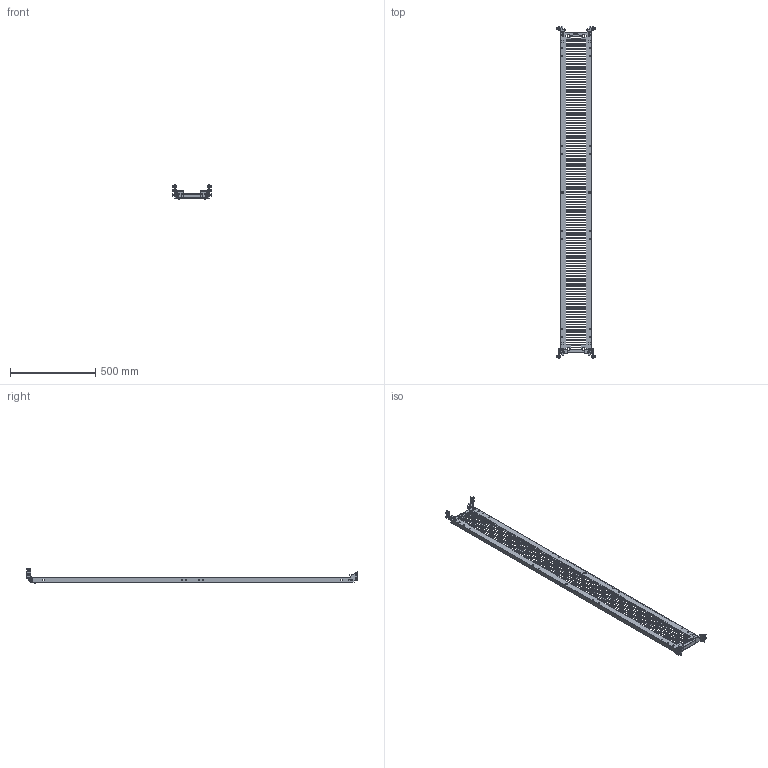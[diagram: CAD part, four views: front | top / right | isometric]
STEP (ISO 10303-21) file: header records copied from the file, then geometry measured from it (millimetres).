
FILE_DESCRIPTION (( 'STEP AP203' ), '1' );
FILE_NAME ('R5NPCEP2030.STEP', '2025-03-26T10:52:50', ( '' ), ( '' ), 'SwSTEP 2.0', 'SolidWorks 2022', '' );
FILE_SCHEMA (( 'CONFIG_CONTROL_DESIGN' ));
Length unit declared in the file: millimetre
Products named in the file (20): RB.2709.00.00.0; RB.1499.00.03.0; RB.2697.00.00.0; RB.2814.00.01.0; RB.2814.00.00.0 СБ_-01; RB.2814.00.00.0 СБ; R5NPCEP2030; RB.2684.00.01.0; RB.2684.00.03.0; M6x16 DIN 7985 Torx cl.8,8 Zinc_stright; М6 D87181 Zinc_In a tightened position (1.5 mm); M6 MGR-MKO-0625_1,5mm (thread); 003-006-19 GOST 9833-73; M6x16 DIN 912 HX cl.4,8 Zinc_thread; RB.2814.00.01.0_-01; RB.2684.00.00.0 СБ; RB.2628.00.00.0_-24; RB.2684.00.01.0_-01; RB.2684.00.00.0 СБ_-01; AC00C237
Assembly tree (43 placements, depth 3):
  R5NPCEP2030
    RB.2628.00.00.0_-24
    RB.2814.00.00.0 СБ_-01
      RB.2814.00.01.0_-01
      M6 MGR-MKO-0625_1,5mm (thread)
    RB.2814.00.00.0 СБ
      RB.2814.00.01.0
      M6 MGR-MKO-0625_1,5mm (thread)
    M6x16 DIN 912 HX cl.4,8 Zinc_thread  x2
    AC00C237  x2
    RB.2684.00.00.0 СБ_-01
      RB.2684.00.01.0_-01
      RB.2684.00.03.0
      RB.1499.00.03.0
      RB.2697.00.00.0
      003-006-19 GOST 9833-73  x2
    RB.2684.00.00.0 СБ
      RB.2684.00.01.0
      RB.2684.00.03.0
      RB.1499.00.03.0
      003-006-19 GOST 9833-73  x2
      RB.2697.00.00.0
    M6x16 DIN 7985 Torx cl.8,8 Zinc_stright  x8
    М6 D87181 Zinc_In a tightened position (1.5 mm)  x8
    RB.2709.00.00.0  x2
Bounding box: 228.3 x 1950.46 x 84.5 mm (x, y, z)
Volume: 1037323.4 mm3; surface area: 938564.7 mm2
Topology: 39 solids, 39 shells, 4217 faces, 11895 edges, 7687 vertices
Faces by surface type: plane 3078, cylinder 512, bspline 301, cone 186, torus 132, sphere 8
Full cylindrical faces by diameter (mm): 0.6 x12, 2.3 x4, 2.5 x4, 3.8 x6, 4 x2, 4.2 x4, 4.92 x14, 5 x16, 6 x58, 6.5 x8, 6.7 x2, 7 x12, 7.5 x2, 8 x4, 8.3 x8, 9 x6, 10 x4, 12 x26, 15 x6
Entity records: 97539 total; most frequent: CARTESIAN_POINT 20245, ORIENTED_EDGE 15676, DIRECTION 13631, EDGE_CURVE 7838, LINE 7213, VECTOR 7213, VERTEX_POINT 5292, EDGE_LOOP 4142
